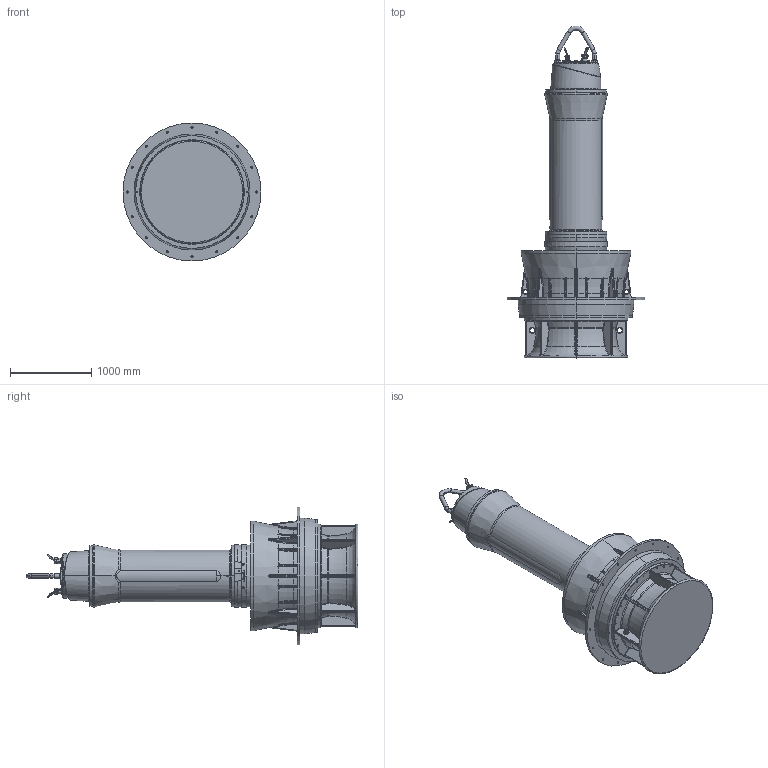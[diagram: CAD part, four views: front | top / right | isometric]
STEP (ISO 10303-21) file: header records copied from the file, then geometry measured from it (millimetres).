
FILE_DESCRIPTION (( 'STEP AP214' ), '1' );
FILE_NAME ('PE7_VUPX1200_FU_F.STEP', '2017-05-05T09:07:21', ( '' ), ( '' ), 'SwSTEP 2.0', 'SolidWorks 2017', '' );
FILE_SCHEMA (( 'AUTOMOTIVE_DESIGN' ));
Length unit declared in the file: millimetre
Products named in the file (1): PE7_VUPX1200_FU_F
Bounding box: 1700 x 4089.62 x 1700 mm (x, y, z)
Volume: 2296808941.3 mm3; surface area: 20610866.8 mm2
Topology: 4 solids, 26 shells, 3140 faces, 7755 edges, 4633 vertices
Faces by surface type: bspline 912, plane 881, cylinder 758, torus 328, cone 195, sphere 66
Entity records: 183952 total; most frequent: CARTESIAN_POINT 82303, ORIENTED_EDGE 15270, DIRECTION 12314, EDGE_CURVE 7635, AXIS2_PLACEMENT_3D 4889, VERTEX_POINT 4626, EDGE_LOOP 3347, UNCERTAINTY_MEASURE_WITH_UNIT 3146
